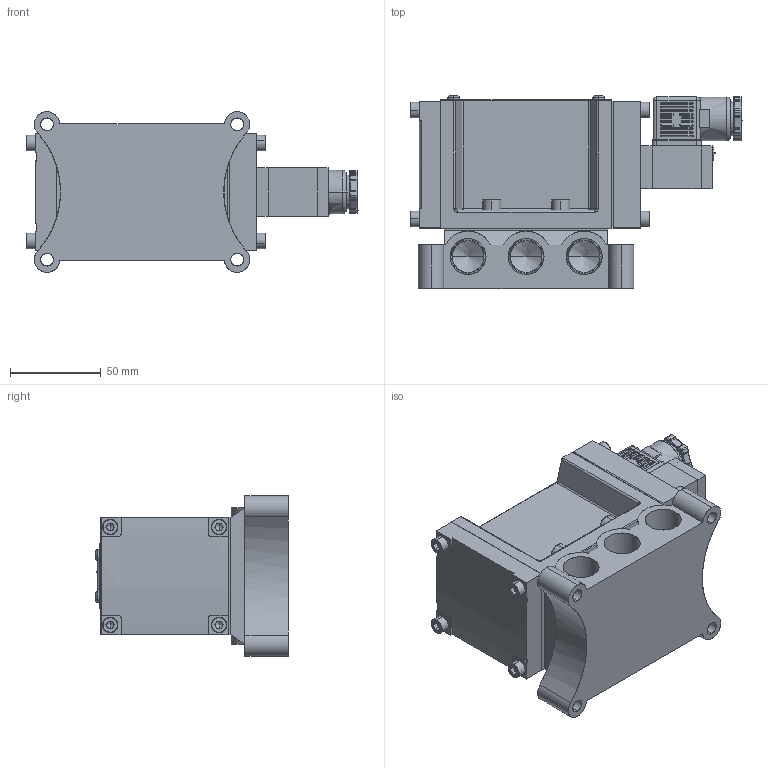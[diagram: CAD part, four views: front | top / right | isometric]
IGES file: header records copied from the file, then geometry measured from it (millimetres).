
Start section: SolidWorks IGES file using analytic representation for surfaces
Global section: file name: D:\Custom\3D繪製\PM\PM10\PMS2410#-04-#C#.IGS,1; native system: 5HSolidWorks 2014; preprocessor: SolidWorks 2014; author: Chieh_Lu; date: 150912.104908; units: millimetre
Bounding box: 183 x 106.35 x 88.61 mm (x, y, z)
Surface area: 155410.9 mm2 (no closed solid volume)
Topology: 0 solids, 0 shells, 1257 faces, 12686 edges, 12512 vertices
Faces by surface type: bspline 636, revolution 621
